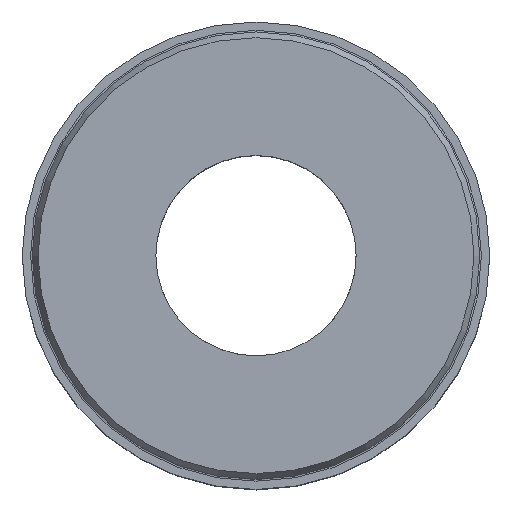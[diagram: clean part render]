
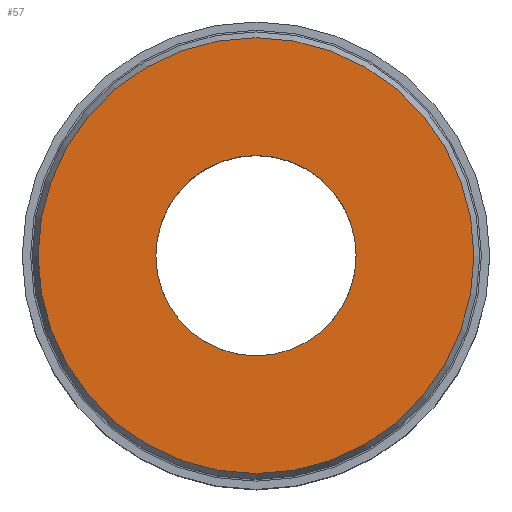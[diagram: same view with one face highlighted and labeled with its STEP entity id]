
A CAD part, top view. The second image highlights one B-rep face of the part: STEP entity #57.
In plain terms, the highlighted planar face has unit normal (0, 0, 1).
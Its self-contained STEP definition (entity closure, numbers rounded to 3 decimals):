
#57=ADVANCED_FACE('',(#83,#84),#74,.T.);
#74=PLANE('',#249);
#83=FACE_BOUND('',#119,.T.);
#84=FACE_BOUND('',#120,.T.);
#119=EDGE_LOOP('',(#155));
#120=EDGE_LOOP('',(#156));
#155=ORIENTED_EDGE('',*,*,#209,.T.);
#156=ORIENTED_EDGE('',*,*,#210,.T.);
#191=VERTEX_POINT('',#360);
#192=VERTEX_POINT('',#362);
#209=EDGE_CURVE('',#191,#191,#227,.T.);
#210=EDGE_CURVE('',#192,#192,#228,.T.);
#227=CIRCLE('',#247,6.527);
#228=CIRCLE('',#248,3.);
#247=AXIS2_PLACEMENT_3D('',#359,#290,#291);
#248=AXIS2_PLACEMENT_3D('',#361,#292,#293);
#249=AXIS2_PLACEMENT_3D('',#363,#294,#295);
#290=DIRECTION('',(0.,0.,1.));
#291=DIRECTION('',(1.,0.,0.));
#292=DIRECTION('',(0.,0.,-1.));
#293=DIRECTION('',(-1.,0.,0.));
#294=DIRECTION('',(0.,0.,1.));
#295=DIRECTION('',(1.,0.,0.));
#359=CARTESIAN_POINT('',(0.,0.,3.5));
#360=CARTESIAN_POINT('',(6.527,0.,3.5));
#361=CARTESIAN_POINT('',(0.,0.,3.5));
#362=CARTESIAN_POINT('',(-3.,0.,3.5));
#363=CARTESIAN_POINT('',(0.,7.,3.5));
